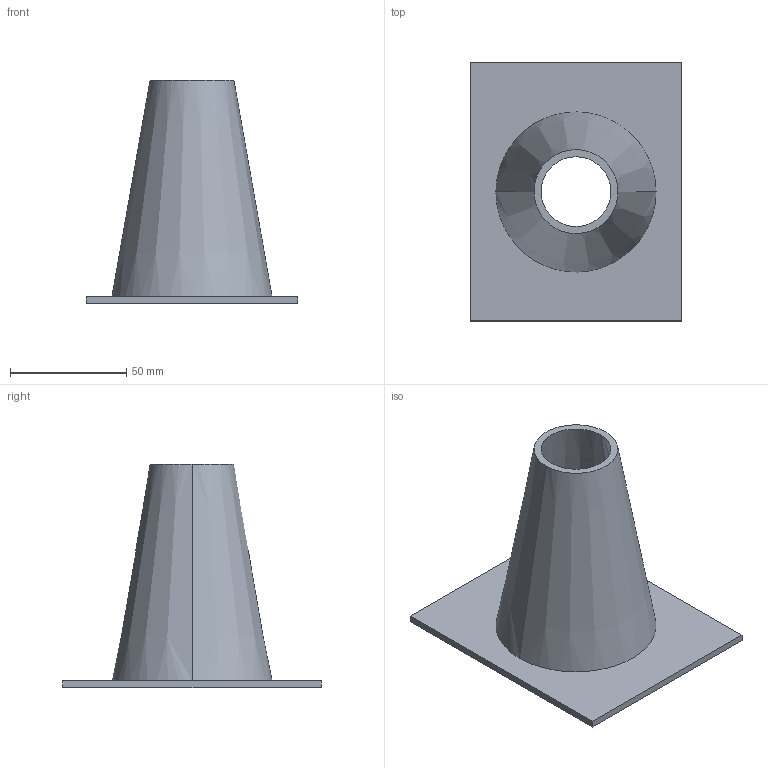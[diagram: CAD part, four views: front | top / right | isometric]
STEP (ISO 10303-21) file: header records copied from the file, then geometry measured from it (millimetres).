
FILE_DESCRIPTION(('CATIA V5 STEP Exchange'),'2;1');
FILE_NAME('C:\_Andres\UNIVERSIDAD\IQS\ASIGNATURAS\DAO\EXF\EXF-15161c\1original\Aloguín_Serramia_Ej08-ensambla_v1.stp','2016-03-04T21:37:14+00:00',('none'),('none'),'CATIA Version 5 Release 20 SP 1 (IN-10)','CATIA V5 STEP AP203','none');
FILE_SCHEMA(('CONFIG_CONTROL_DESIGN'));
Length unit declared in the file: millimetre
Products named in the file (1): Aloguín_Serramia_Ej08-ensambla_v1
Bounding box: 91 x 111 x 96 mm (x, y, z)
Volume: 64860.9 mm3; surface area: 44744.6 mm2
Topology: 1 solids, 1 shells, 11 faces, 24 edges, 16 vertices
Faces by surface type: plane 7, cone 4
Entity records: 414 total; most frequent: CARTESIAN_POINT 127, ORIENTED_EDGE 48, DIRECTION 44, EDGE_CURVE 24, AXIS2_PLACEMENT_3D 17, VECTOR 16, LINE 16, VERTEX_POINT 16
